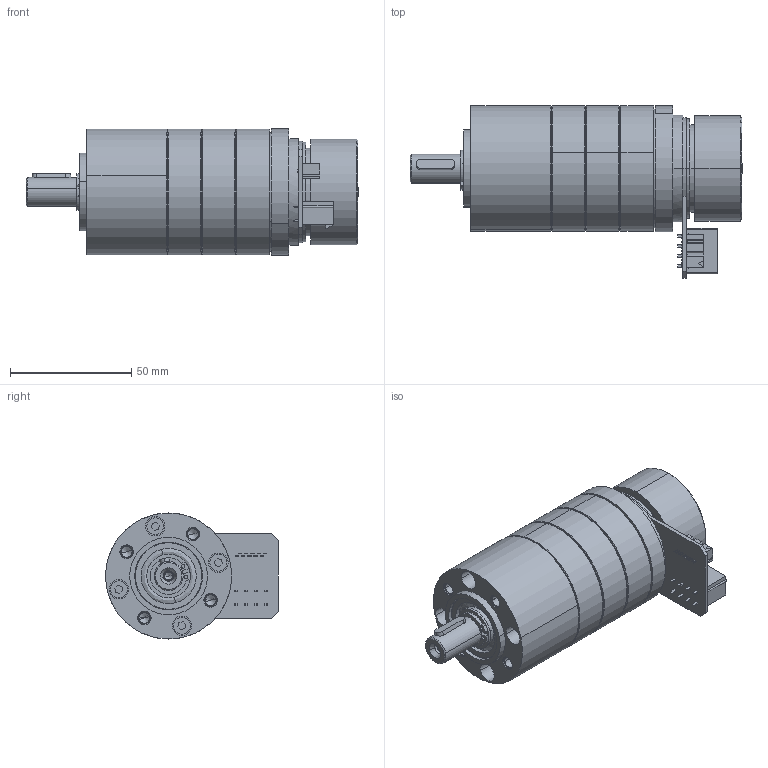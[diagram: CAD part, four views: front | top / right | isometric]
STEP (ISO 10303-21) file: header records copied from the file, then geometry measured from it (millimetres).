
FILE_DESCRIPTION (( 'STEP AP214' ), '1' );
FILE_NAME ('EC45Flat-70W+mile+ PM52-3 étages.STEP', '2014-11-18T14:17:03', ( '' ), ( '' ), 'SwSTEP 2.0', 'SolidWorks 2013', '' );
FILE_SCHEMA (( 'AUTOMOTIVE_DESIGN' ));
Length unit declared in the file: millimetre
Products named in the file (21): EC45FLAT-70W+mile; PM52 pour EC45Flat-70W_3 etages; Coté moteur^PM52 pour EC45Flat-70W; EC45Flat-70W+mile+ PM52-3 étages; 1009221-V1_Part; D912_M4X10_1; Coté sortie^PM52 pour EC45Flat-70W; SCHRAUBE_1241978_6; 4X4X16_D6885A_2; D471_12X1_5_2; 8102168_ABTRIEB_LK1_KPL_2; GK2152_POS31_2_LAGERBOLZEN_2; 8101171_ABTRIEB_ROHTEIL_AF0_2; DIN998_PS_12X18X1_2; D625-6001-2RS_2; 8006231_LAGERFLANSCH_2; 8006230_ZAHNKRANZ_Z46_2; 8006405_DICHTRING_2; EC45Flat-70w+mile; 906350101; 039281083
Assembly tree (33 placements, depth 5):
  EC45Flat-70W+mile+ PM52-3 étages
    EC45Flat-70w+mile
      EC45FLAT-70W+mile
      039281083
      906350101
    PM52 pour EC45Flat-70W_3 etages
      8006405_DICHTRING_2  x2
      8006230_ZAHNKRANZ_Z46_2  x3
      Coté sortie^PM52 pour EC45Flat-70W
        8006231_LAGERFLANSCH_2
        D625-6001-2RS_2  x2
        DIN998_PS_12X18X1_2  x2
        8102168_ABTRIEB_LK1_KPL_2
          8101171_ABTRIEB_ROHTEIL_AF0_2
          GK2152_POS31_2_LAGERBOLZEN_2  x3
        D471_12X1_5_2
        4X4X16_D6885A_2
        8006405_DICHTRING_2
        SCHRAUBE_1241978_6  x4
      Coté moteur^PM52 pour EC45Flat-70W
        8006405_DICHTRING_2
        D912_M4X10_1  x2
        1009221-V1_Part
Bounding box: 137 x 71.3 x 52 mm (x, y, z)
Volume: 116361.9 mm3; surface area: 90515.5 mm2
Topology: 24 solids, 45 shells, 1705 faces, 4454 edges, 2916 vertices
Faces by surface type: plane 959, cylinder 602, cone 92, bspline 52
Entity records: 35080 total; most frequent: CARTESIAN_POINT 6933, DIRECTION 5684, ORIENTED_EDGE 5536, EDGE_CURVE 2782, VECTOR 2042, LINE 2042, VERTEX_POINT 1822, AXIS2_PLACEMENT_3D 1821
